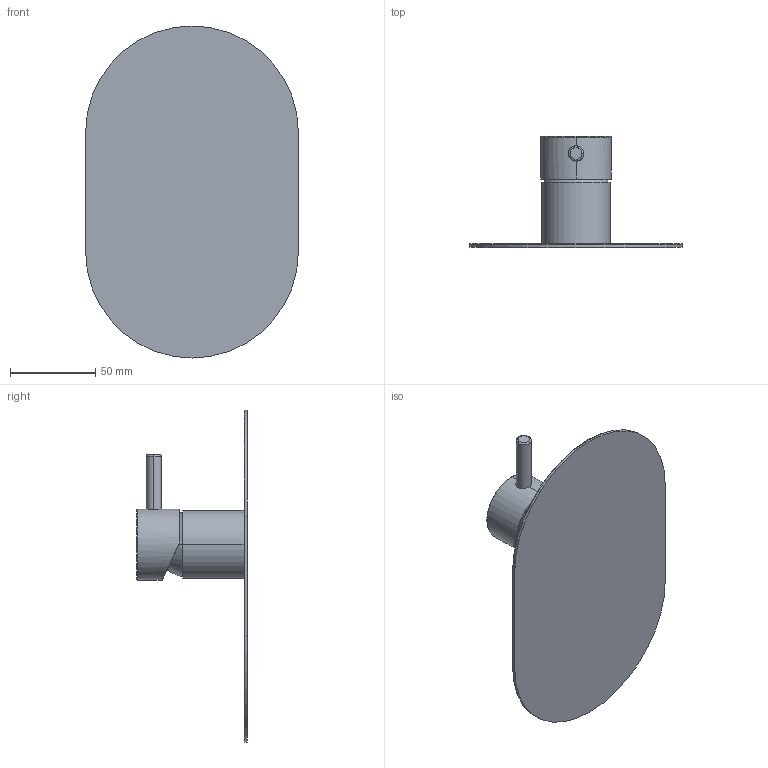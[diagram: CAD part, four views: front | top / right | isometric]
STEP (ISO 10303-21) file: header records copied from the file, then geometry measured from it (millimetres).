
FILE_DESCRIPTION((''),'2;1');
FILE_NAME('12511_SW0001','2025-02-26T10:20:44',('carloff'),(''),'CREO PARAMETRIC BY PTC INC, 2022014','CREO PARAMETRIC BY PTC INC, 2022014','');
FILE_SCHEMA(('CONFIG_CONTROL_DESIGN'));
Length unit declared in the file: millimetre
Products named in the file (1): 12511_SW0001
Bounding box: 125 x 65.1 x 195 mm (x, y, z)
Volume: 109412.1 mm3; surface area: 59781.5 mm2
Topology: 1 solids, 2 shells, 160 faces, 417 edges, 262 vertices
Faces by surface type: plane 81, cylinder 43, cone 15, bspline 11, torus 10
Entity records: 6330 total; most frequent: CARTESIAN_POINT 2425, ORIENTED_EDGE 826, DIRECTION 777, EDGE_CURVE 413, AXIS2_PLACEMENT_3D 271, VERTEX_POINT 262, VECTOR 235, LINE 235
